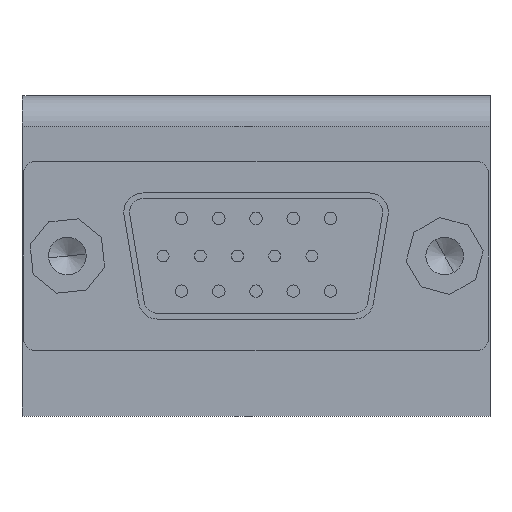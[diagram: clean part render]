
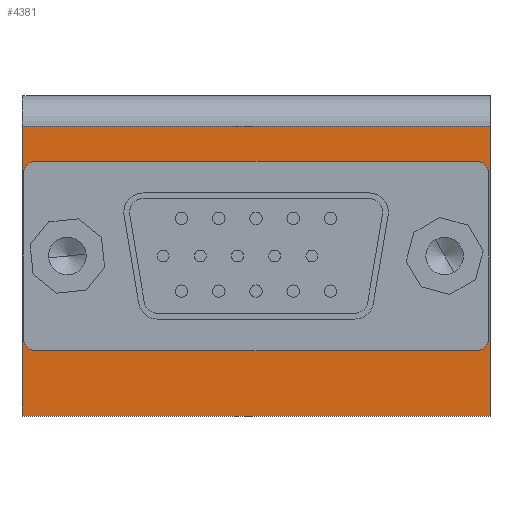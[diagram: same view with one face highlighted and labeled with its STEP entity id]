
A CAD part, front view. The second image highlights one B-rep face of the part: STEP entity #4381.
In plain terms, the highlighted planar face has unit normal (0, -1, 0).
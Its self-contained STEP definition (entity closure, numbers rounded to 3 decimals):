
#8 = EDGE_CURVE ( 'NONE', #13603, #8532, #10879, .T. ) ;
#76 = DIRECTION ( 'NONE',  ( 0., 1., 0. ) ) ;
#96 = CARTESIAN_POINT ( 'NONE',  ( -14.58, -2., -16.048 ) ) ;
#144 = ORIENTED_EDGE ( 'NONE', *, *, #10388, .F. ) ;
#251 = EDGE_CURVE ( 'NONE', #4799, #13891, #14593, .T. ) ;
#542 = CARTESIAN_POINT ( 'NONE',  ( -15.405, -2., -5.152 ) ) ;
#596 = CARTESIAN_POINT ( 'NONE',  ( -14.58, -2., -16.874 ) ) ;
#672 = VERTEX_POINT ( 'NONE', #11258 ) ;
#806 = VERTEX_POINT ( 'NONE', #14375 ) ;
#998 = EDGE_CURVE ( 'NONE', #4884, #672, #8525, .T. ) ;
#1055 = ORIENTED_EDGE ( 'NONE', *, *, #8, .T. ) ;
#1103 = CARTESIAN_POINT ( 'NONE',  ( -14.58, -2., -16.874 ) ) ;
#1442 = VECTOR ( 'NONE', #3306, 1000. ) ;
#1734 = CARTESIAN_POINT ( 'NONE',  ( -15.5, -2., -21.2 ) ) ;
#1805 = DIRECTION ( 'NONE',  ( 0., 0., 1. ) ) ;
#2305 = DIRECTION ( 'NONE',  ( 0., 0., 1. ) ) ;
#2992 = VECTOR ( 'NONE', #13080, 1000. ) ;
#3168 = CARTESIAN_POINT ( 'NONE',  ( 15.405, -2., -5.152 ) ) ;
#3301 = CIRCLE ( 'NONE', #6201, 0.825 ) ;
#3306 = DIRECTION ( 'NONE',  ( 1., 0., 0. ) ) ;
#3319 = EDGE_LOOP ( 'NONE', ( #5558, #1055, #10480, #5371, #12671, #3662, #12365, #144 ) ) ;
#3445 = CARTESIAN_POINT ( 'NONE',  ( 14.58, -2., -4.326 ) ) ;
#3461 = LINE ( 'NONE', #15084, #12268 ) ;
#3628 = AXIS2_PLACEMENT_3D ( 'NONE', #14992, #76, #3702 ) ;
#3662 = ORIENTED_EDGE ( 'NONE', *, *, #7557, .F. ) ;
#3702 = DIRECTION ( 'NONE',  ( 0., 0., -1. ) ) ;
#3771 = AXIS2_PLACEMENT_3D ( 'NONE', #11563, #8016, #5295 ) ;
#4008 = VECTOR ( 'NONE', #10702, 1000. ) ;
#4163 = LINE ( 'NONE', #5647, #15693 ) ;
#4367 = FACE_OUTER_BOUND ( 'NONE', #15864, .T. ) ;
#4381 = ADVANCED_FACE ( 'NONE', ( #10632, #4367 ), #5438, .T. ) ;
#4661 = CIRCLE ( 'NONE', #13593, 0.825 ) ;
#4799 = VERTEX_POINT ( 'NONE', #1103 ) ;
#4884 = VERTEX_POINT ( 'NONE', #12157 ) ;
#5043 = EDGE_CURVE ( 'NONE', #14120, #13891, #16256, .T. ) ;
#5087 = VECTOR ( 'NONE', #15930, 1000. ) ;
#5133 = DIRECTION ( 'NONE',  ( 0., -1., 0. ) ) ;
#5178 = CARTESIAN_POINT ( 'NONE',  ( -14.58, -2., -5.152 ) ) ;
#5258 = DIRECTION ( 'NONE',  ( 0., -1., 0. ) ) ;
#5295 = DIRECTION ( 'NONE',  ( 0., 0., -1. ) ) ;
#5371 = ORIENTED_EDGE ( 'NONE', *, *, #5043, .T. ) ;
#5438 = PLANE ( 'NONE',  #8090 ) ;
#5482 = DIRECTION ( 'NONE',  ( 1., 0., 0. ) ) ;
#5558 = ORIENTED_EDGE ( 'NONE', *, *, #8021, .F. ) ;
#5647 = CARTESIAN_POINT ( 'NONE',  ( 15.5, -2., -21.2 ) ) ;
#5674 = LINE ( 'NONE', #12090, #4008 ) ;
#6201 = AXIS2_PLACEMENT_3D ( 'NONE', #96, #5133, #9839 ) ;
#6232 = VERTEX_POINT ( 'NONE', #12200 ) ;
#6312 = ORIENTED_EDGE ( 'NONE', *, *, #11019, .T. ) ;
#6313 = CARTESIAN_POINT ( 'NONE',  ( -14.58, -2., -4.326 ) ) ;
#7206 = CARTESIAN_POINT ( 'NONE',  ( 15.405, -2., -5.152 ) ) ;
#7557 = EDGE_CURVE ( 'NONE', #6232, #4799, #3301, .T. ) ;
#8016 = DIRECTION ( 'NONE',  ( 0., 1., 0. ) ) ;
#8021 = EDGE_CURVE ( 'NONE', #13603, #14181, #12914, .T. ) ;
#8062 = CARTESIAN_POINT ( 'NONE',  ( 14.58, -2., -4.326 ) ) ;
#8090 = AXIS2_PLACEMENT_3D ( 'NONE', #11943, #13172, #1805 ) ;
#8525 = LINE ( 'NONE', #13380, #15189 ) ;
#8532 = VERTEX_POINT ( 'NONE', #7206 ) ;
#8614 = EDGE_CURVE ( 'NONE', #8532, #14120, #10916, .T. ) ;
#9047 = ORIENTED_EDGE ( 'NONE', *, *, #15163, .T. ) ;
#9176 = DIRECTION ( 'NONE',  ( 0., 0., 1. ) ) ;
#9256 = CARTESIAN_POINT ( 'NONE',  ( -15.405, -2., -16.048 ) ) ;
#9760 = DIRECTION ( 'NONE',  ( 0., 0., 1. ) ) ;
#9839 = DIRECTION ( 'NONE',  ( 0., 0., -1. ) ) ;
#9884 = EDGE_CURVE ( 'NONE', #13363, #806, #3461, .T. ) ;
#10388 = EDGE_CURVE ( 'NONE', #14181, #15576, #4661, .T. ) ;
#10480 = ORIENTED_EDGE ( 'NONE', *, *, #8614, .T. ) ;
#10632 = FACE_BOUND ( 'NONE', #3319, .T. ) ;
#10658 = LINE ( 'NONE', #9256, #13328 ) ;
#10702 = DIRECTION ( 'NONE',  ( -1., 0., 0. ) ) ;
#10879 = CIRCLE ( 'NONE', #3771, 0.825 ) ;
#10916 = LINE ( 'NONE', #3168, #5087 ) ;
#11019 = EDGE_CURVE ( 'NONE', #13363, #4884, #4163, .T. ) ;
#11258 = CARTESIAN_POINT ( 'NONE',  ( 15.5, -2., -2. ) ) ;
#11437 = EDGE_CURVE ( 'NONE', #6232, #15576, #10658, .T. ) ;
#11563 = CARTESIAN_POINT ( 'NONE',  ( 14.58, -2., -5.152 ) ) ;
#11943 = CARTESIAN_POINT ( 'NONE',  ( 15.5, -2., -21.2 ) ) ;
#12090 = CARTESIAN_POINT ( 'NONE',  ( 15.5, -2., -2. ) ) ;
#12157 = CARTESIAN_POINT ( 'NONE',  ( 15.5, -2., -21.2 ) ) ;
#12200 = CARTESIAN_POINT ( 'NONE',  ( -15.405, -2., -16.048 ) ) ;
#12268 = VECTOR ( 'NONE', #2305, 1000. ) ;
#12365 = ORIENTED_EDGE ( 'NONE', *, *, #11437, .T. ) ;
#12671 = ORIENTED_EDGE ( 'NONE', *, *, #251, .F. ) ;
#12914 = LINE ( 'NONE', #8062, #2992 ) ;
#13080 = DIRECTION ( 'NONE',  ( -1., 0., 0. ) ) ;
#13172 = DIRECTION ( 'NONE',  ( 0., -1., 0. ) ) ;
#13328 = VECTOR ( 'NONE', #9176, 1000. ) ;
#13363 = VERTEX_POINT ( 'NONE', #1734 ) ;
#13380 = CARTESIAN_POINT ( 'NONE',  ( 15.5, -2., -21.2 ) ) ;
#13593 = AXIS2_PLACEMENT_3D ( 'NONE', #5178, #5258, #13900 ) ;
#13603 = VERTEX_POINT ( 'NONE', #3445 ) ;
#13891 = VERTEX_POINT ( 'NONE', #15388 ) ;
#13900 = DIRECTION ( 'NONE',  ( 0., 0., -1. ) ) ;
#14120 = VERTEX_POINT ( 'NONE', #16276 ) ;
#14181 = VERTEX_POINT ( 'NONE', #6313 ) ;
#14375 = CARTESIAN_POINT ( 'NONE',  ( -15.5, -2., -2. ) ) ;
#14564 = ORIENTED_EDGE ( 'NONE', *, *, #9884, .F. ) ;
#14593 = LINE ( 'NONE', #596, #1442 ) ;
#14992 = CARTESIAN_POINT ( 'NONE',  ( 14.58, -2., -16.048 ) ) ;
#15084 = CARTESIAN_POINT ( 'NONE',  ( -15.5, -2., -21.2 ) ) ;
#15163 = EDGE_CURVE ( 'NONE', #672, #806, #5674, .T. ) ;
#15189 = VECTOR ( 'NONE', #9760, 1000. ) ;
#15388 = CARTESIAN_POINT ( 'NONE',  ( 14.58, -2., -16.874 ) ) ;
#15576 = VERTEX_POINT ( 'NONE', #542 ) ;
#15693 = VECTOR ( 'NONE', #5482, 1000. ) ;
#15864 = EDGE_LOOP ( 'NONE', ( #15870, #9047, #14564, #6312 ) ) ;
#15870 = ORIENTED_EDGE ( 'NONE', *, *, #998, .T. ) ;
#15930 = DIRECTION ( 'NONE',  ( 0., 0., -1. ) ) ;
#16256 = CIRCLE ( 'NONE', #3628, 0.825 ) ;
#16276 = CARTESIAN_POINT ( 'NONE',  ( 15.405, -2., -16.048 ) ) ;
